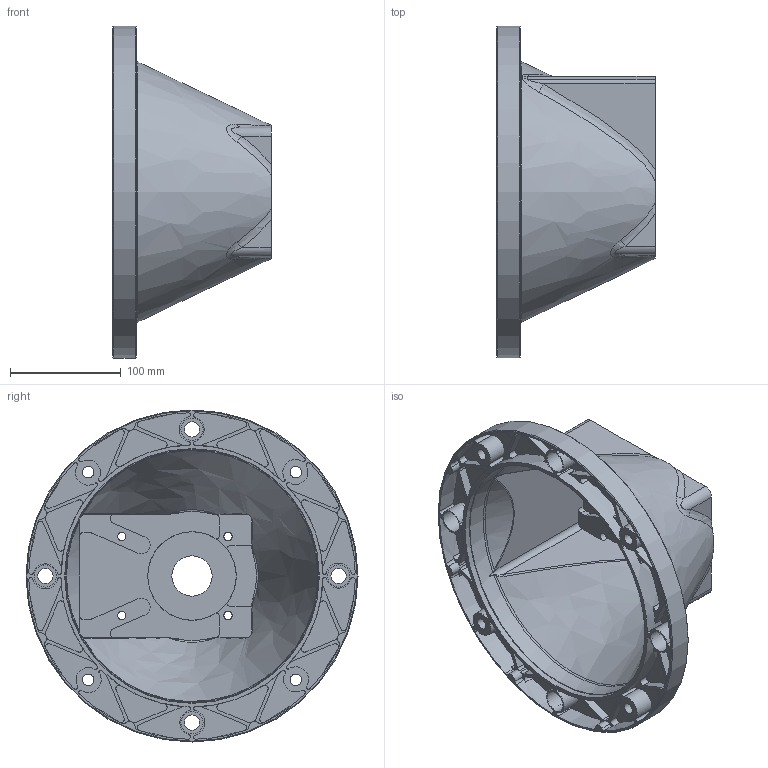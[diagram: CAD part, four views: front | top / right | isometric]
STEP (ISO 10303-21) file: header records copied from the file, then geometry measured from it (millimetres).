
FILE_DESCRIPTION(('STEP AP203'),'2;1');
FILE_NAME('LSE300.stp','2007-05-15T13:05:24',(''),(''),'2005.1.101','THINKDESIGN','');
FILE_SCHEMA(('CONFIG_CONTROL_DESIGN'));
Length unit declared in the file: millimetre
Bounding box: 143 x 300 x 300 mm (x, y, z)
Volume: 576571 mm3; surface area: 343071.5 mm2
Topology: 2 solids, 2 shells, 387 faces, 1111 edges, 743 vertices
Faces by surface type: cylinder 214, plane 118, bspline 55
Full cylindrical faces by diameter (mm): 7.5 x4, 10.25 x4, 14 x4, 20.154 x4, 36.5 x1, 80 x1, 88 x2, 230 x1, 235 x1, 300 x1
Entity records: 18612 total; most frequent: CARTESIAN_POINT 8081, DIRECTION 2273, ORIENTED_EDGE 2222, EDGE_CURVE 1111, AXIS2_PLACEMENT_3D 926, VERTEX_POINT 743, CIRCLE 594, EDGE_LOOP 430
